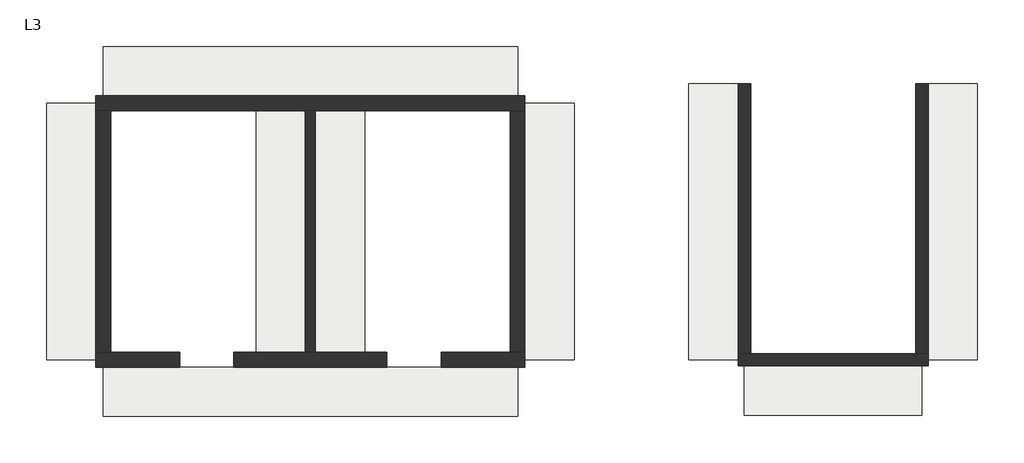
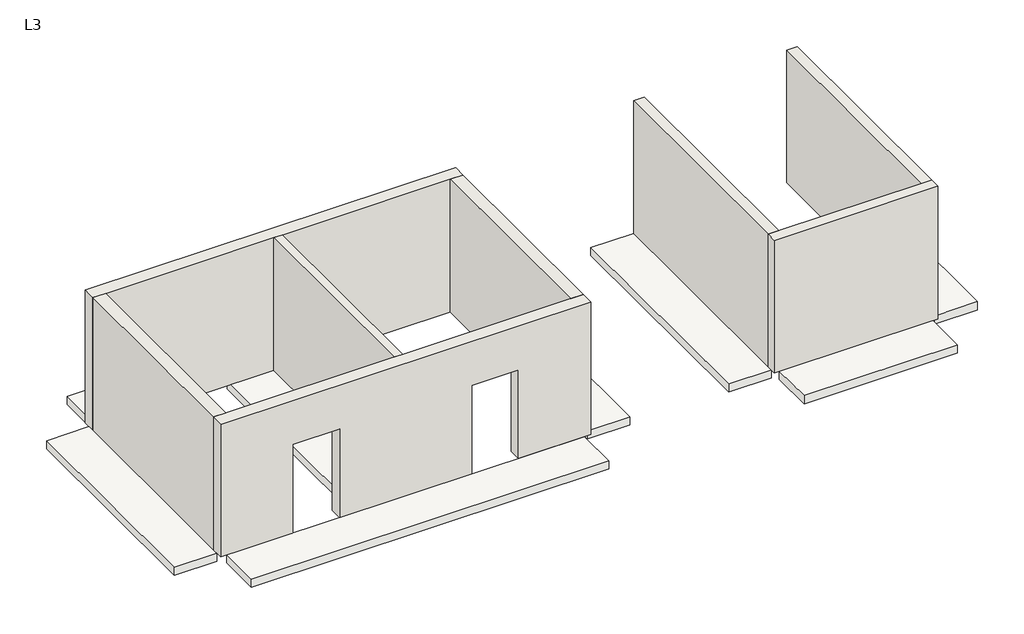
# One storey: 9 slabs, 8 walls.
"""IFC4 building model written with IfcOpenShell, lengths in millimetres."""

from ifc_helpers import new_model, si_unit, frame, origin, place, context, project, spatial, polyline, outline, extrude, faceted_brep, element, save

model = new_model("IFC4")

# Units and contexts
model_context = context("Model", 3, world=origin())
ifc_project = project(units=[si_unit("LENGTHUNIT", "METRE", prefix="MILLI")], contexts=[model_context])

# Site, building, storey
site = spatial("IfcSite", under=ifc_project)
building = spatial("IfcBuilding", under=site)
storey = spatial("IfcBuildingStorey", under=building, Name="L3", Elevation=7800.0)

# Slabs
placement = place(None, origin())
element("IfcSlab", 1, ObjectType="BS-Sàn 200", at=placement, inside=storey, context=model_context, shape_type="SweptSolid", body=[
    extrude(outline(polyline([(0.0, 6350.0), (8400.0, 6350.0), (8400.0, 5350.0), (0.0, 5350.0), (0.0, 6350.0)])), frame((0.0, 0.0, 7600.0), z_axis=(0.0, 0.0, 1.0), x_axis=(1.0, 0.0, 0.0)), (0.0, 0.0, 1.0), 200.0),
])
element("IfcSlab", 2, ObjectType="BS-Sàn 200", at=placement, inside=storey, context=model_context, shape_type="SweptSolid", body=[
    extrude(outline(polyline([(16725.0, 5600.0), (17725.0, 5600.0), (17725.0, 0.0), (16725.0, 0.0), (16725.0, 5600.0)])), frame((0.0, 0.0, 7600.0), z_axis=(0.0, 0.0, 1.0), x_axis=(1.0, 0.0, 0.0)), (0.0, 0.0, 1.0), 200.0),
])
element("IfcSlab", 3, ObjectType="BS-Sàn 200", at=placement, inside=storey, context=model_context, shape_type="SweptSolid", body=[
    extrude(outline(polyline([(11875.0, 5600.0), (12875.0, 5600.0), (12875.0, 0.0), (11875.0, 0.0), (11875.0, 5600.0)])), frame((0.0, 0.0, 7600.0), z_axis=(0.0, 0.0, 1.0), x_axis=(1.0, 0.0, 0.0)), (0.0, 0.0, 1.0), 200.0),
])
element("IfcSlab", 4, ObjectType="BS-Sàn 200", at=placement, inside=storey, context=model_context, shape_type="SweptSolid", body=[
    extrude(outline(polyline([(4300.0, 5200.0), (5300.0, 5200.0), (5300.0, 0.0), (4300.0, 0.0), (4300.0, 5200.0)])), frame((0.0, 0.0, 7600.0), z_axis=(0.0, 0.0, 1.0), x_axis=(1.0, 0.0, 0.0)), (0.0, 0.0, 1.0), 200.0),
])
element("IfcSlab", 5, ObjectType="BS-Sàn 200", at=placement, inside=storey, context=model_context, shape_type="SweptSolid", body=[
    extrude(outline(polyline([(3100.0, 5200.0), (4100.0, 5200.0), (4100.0, 0.0), (3100.0, 0.0), (3100.0, 5200.0)])), frame((0.0, 0.0, 7600.0), z_axis=(0.0, 0.0, 1.0), x_axis=(1.0, 0.0, 0.0)), (0.0, 0.0, 1.0), 200.0),
])
element("IfcSlab", 6, ObjectType="BS-Sàn 200", at=placement, inside=storey, context=model_context, shape_type="SweptSolid", body=[
    extrude(outline(polyline([(8550.0, 5200.0), (9550.0, 5200.0), (9550.0, 0.0), (8550.0, 0.0), (8550.0, 5200.0)])), frame((0.0, 0.0, 7600.0), z_axis=(0.0, 0.0, 1.0), x_axis=(1.0, 0.0, 0.0)), (0.0, 0.0, 1.0), 200.0),
])
element("IfcSlab", 7, ObjectType="BS-Sàn 200", at=placement, inside=storey, context=model_context, shape_type="SweptSolid", body=[
    extrude(outline(polyline([(-1150.0, 5200.0), (-150.0, 5200.0), (-150.0, 0.0), (-1150.0, 0.0), (-1150.0, 5200.0)])), frame((0.0, 0.0, 7600.0), z_axis=(0.0, 0.0, 1.0), x_axis=(1.0, 0.0, 0.0)), (0.0, 0.0, 1.0), 200.0),
])
element("IfcSlab", 8, ObjectType="BS-Sàn 200", at=placement, inside=storey, context=model_context, shape_type="SweptSolid", body=[
    extrude(outline(polyline([(13000.0, -125.0), (16600.0, -125.0), (16600.0, -1125.0), (13000.0, -1125.0), (13000.0, -125.0)])), frame((0.0, 0.0, 7600.0), z_axis=(0.0, 0.0, 1.0), x_axis=(1.0, 0.0, 0.0)), (0.0, 0.0, 1.0), 200.0),
])
element("IfcSlab", 9, ObjectType="BS-Sàn 200", at=placement, inside=storey, context=model_context, shape_type="SweptSolid", body=[
    extrude(outline(polyline([(0.0, -150.0), (8400.0, -150.0), (8400.0, -1150.0), (0.0, -1150.0), (0.0, -150.0)])), frame((0.0, 0.0, 7600.0), z_axis=(0.0, 0.0, 1.0), x_axis=(1.0, 0.0, 0.0)), (0.0, 0.0, 1.0), 200.0),
])

# Walls
element("IfcWall", 10, ObjectType="BS-Vách 300", at=placement, inside=storey, context=model_context, shape_type="Brep", body=[
    faceted_brep([(-150.0, 5050.0, 7800.0), (150.0, 5050.0, 7800.0), (4100.0, 5050.0, 7800.0), (4300.0, 5050.0, 7800.0), (8250.0, 5050.0, 7800.0), (8550.0, 5050.0, 7800.0), (8550.0, 5050.0, 11100.0), (8250.0, 5050.0, 11100.0), (4300.0, 5050.0, 11100.0), (4100.0, 5050.0, 11100.0), (150.0, 5050.0, 11100.0), (-150.0, 5050.0, 11100.0), (-150.0, 5350.0, 7800.0), (-150.0, 5350.0, 11100.0), (8550.0, 5350.0, 11100.0), (8550.0, 5350.0, 7800.0)], [[[0, 1, 2, 3, 4, 5, 6, 7, 8, 9, 10, 11]], [[12, 13, 14, 15]], [[5, 4, 3, 2, 1, 0, 12, 15]], [[11, 10, 9, 8, 7, 6, 14, 13]], [[6, 5, 15, 14]], [[0, 11, 13, 12]]]),
])
element("IfcWall", 11, ObjectType="BS-Vách 300", at=placement, inside=storey, context=model_context, shape_type="Brep", body=[
    faceted_brep([(8550.0, -150.0, 7800.0), (8550.0, -150.0, 11100.0), (-150.0, -150.0, 11100.0), (-150.0, -150.0, 7800.0), (1550.0, -150.0, 7800.0), (1550.0, -150.0, 10000.0), (2650.0, -150.0, 10000.0), (2650.0, -150.0, 7800.0), (5750.0, -150.0, 7800.0), (5750.0, -150.0, 10000.0), (6850.0, -150.0, 10000.0), (6850.0, -150.0, 7800.0), (8550.0, 150.0, 11100.0), (8550.0, 150.0, 7800.0), (8250.0, 150.0, 7800.0), (6850.0, 150.0, 7800.0), (6850.0, 150.0, 10000.0), (5750.0, 150.0, 10000.0), (5750.0, 150.0, 7800.0), (4300.0, 150.0, 7800.0), (4100.0, 150.0, 7800.0), (2650.0, 150.0, 7800.0), (2650.0, 150.0, 10000.0), (1550.0, 150.0, 10000.0), (1550.0, 150.0, 7800.0), (150.0, 150.0, 7800.0), (-150.0, 150.0, 7800.0), (-150.0, 150.0, 11100.0), (150.0, 150.0, 11100.0), (4100.0, 150.0, 11100.0), (4300.0, 150.0, 11100.0), (8250.0, 150.0, 11100.0)], [[[0, 1, 2, 3, 4, 5, 6, 7, 8, 9, 10, 11]], [[12, 13, 14, 15, 16, 17, 18, 19, 20, 21, 22, 23, 24, 25, 26, 27, 28, 29, 30, 31]], [[7, 21, 20, 19, 18, 8]], [[13, 0, 11, 15, 14]], [[3, 26, 25, 24, 4]], [[2, 1, 12, 31, 30, 29, 28, 27]], [[5, 23, 22, 6]], [[23, 5, 4, 24]], [[6, 22, 21, 7]], [[9, 17, 16, 10]], [[17, 9, 8, 18]], [[10, 16, 15, 11]], [[1, 0, 13, 12]], [[3, 2, 27, 26]]]),
])
element("IfcWall", 12, ObjectType="BS-Vách 300", at=placement, inside=storey, context=model_context, shape_type="SweptSolid", body=[
    extrude(outline(polyline([(150.0, 5050.0), (150.0, 150.0), (-150.0, 150.0), (-150.0, 5050.0), (150.0, 5050.0)])), frame((0.0, 0.0, 7800.0), z_axis=(0.0, 0.0, 1.0), x_axis=(1.0, 0.0, 0.0)), (0.0, 0.0, 1.0), 3300.0),
])
element("IfcWall", 13, ObjectType="BS-Vách 300", at=placement, inside=storey, context=model_context, shape_type="SweptSolid", body=[
    extrude(outline(polyline([(8550.0, 5050.0), (8550.0, 150.0), (8250.0, 150.0), (8250.0, 5050.0), (8550.0, 5050.0)])), frame((0.0, 0.0, 7800.0), z_axis=(0.0, 0.0, 1.0), x_axis=(1.0, 0.0, 0.0)), (0.0, 0.0, 1.0), 3300.0),
])
element("IfcWall", 14, ObjectType="BS-Vách 200", at=placement, inside=storey, context=model_context, shape_type="SweptSolid", body=[
    extrude(outline(polyline([(4300.0, 5050.0), (4300.0, 150.0), (4100.0, 150.0), (4100.0, 5050.0), (4300.0, 5050.0)])), frame((0.0, 0.0, 7800.0), z_axis=(0.0, 0.0, 1.0), x_axis=(1.0, 0.0, 0.0)), (0.0, 0.0, 1.0), 3300.0),
])
element("IfcWall", 15, ObjectType="BS-Vách 250", at=placement, inside=storey, context=model_context, shape_type="Brep", body=[
    faceted_brep([(12875.0, -125.0, 7800.0), (16725.0, -125.0, 7800.0), (16725.0, -125.0, 11100.0), (12875.0, -125.0, 11100.0), (12875.0, 125.0, 7800.0), (12875.0, 125.0, 11100.0), (13125.0, 125.0, 11100.0), (16475.0, 125.0, 11100.0), (16725.0, 125.0, 11100.0), (16725.0, 125.0, 7800.0), (16475.0, 125.0, 7800.0), (13125.0, 125.0, 7800.0)], [[[0, 1, 2, 3]], [[4, 5, 6, 7, 8, 9, 10, 11]], [[1, 0, 4, 11, 10, 9]], [[3, 2, 8, 7, 6, 5]], [[2, 1, 9, 8]], [[0, 3, 5, 4]]]),
])
element("IfcWall", 16, ObjectType="BS-Vách 250", at=placement, inside=storey, context=model_context, shape_type="SweptSolid", body=[
    extrude(outline(polyline([(13125.0, 5600.0), (13125.0, 125.0), (12875.0, 125.0), (12875.0, 5600.0), (13125.0, 5600.0)])), frame((0.0, 0.0, 7800.0), z_axis=(0.0, 0.0, 1.0), x_axis=(1.0, 0.0, 0.0)), (0.0, 0.0, 1.0), 3300.0),
])
element("IfcWall", 17, ObjectType="BS-Vách 250", at=placement, inside=storey, context=model_context, shape_type="SweptSolid", body=[
    extrude(outline(polyline([(16725.0, 5600.0), (16725.0, 125.0), (16475.0, 125.0), (16475.0, 5600.0), (16725.0, 5600.0)])), frame((0.0, 0.0, 7800.0), z_axis=(0.0, 0.0, 1.0), x_axis=(1.0, 0.0, 0.0)), (0.0, 0.0, 1.0), 3300.0),
])

save(model, "model.ifc")
